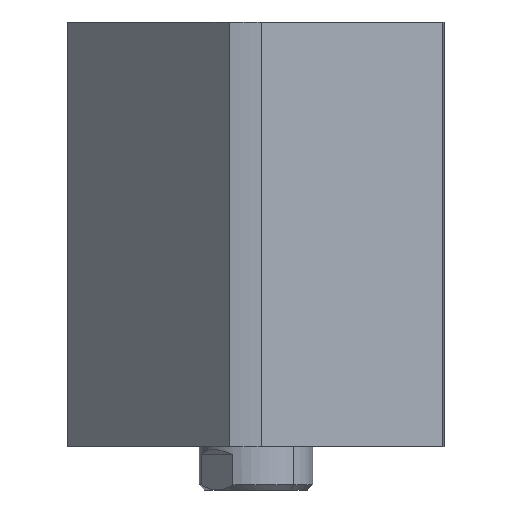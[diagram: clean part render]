
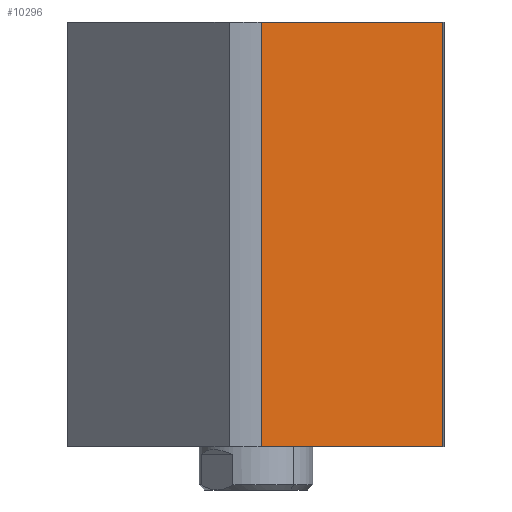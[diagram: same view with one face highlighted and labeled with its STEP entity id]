
A CAD part, left-side view. The second image highlights one B-rep face of the part: STEP entity #10296.
In plain terms, the highlighted planar face has unit normal (-0.747, -0.665, 0) as drawn and (-1, 0, 0) by its records, which use the part's own axes.
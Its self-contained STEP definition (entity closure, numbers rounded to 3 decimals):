
#98 = CARTESIAN_POINT ( 'NONE',  ( -57., 47.971, 168. ) ) ;
#116 = EDGE_CURVE ( 'NONE', #4697, #11147, #10469, .T. ) ;
#408 = AXIS2_PLACEMENT_3D ( 'NONE', #14401, #1515, #9743 ) ;
#1268 = DIRECTION ( 'NONE',  ( 0., 0., 1. ) ) ;
#1310 = ORIENTED_EDGE ( 'NONE', *, *, #116, .F. ) ;
#1473 = VECTOR ( 'NONE', #1268, 1000. ) ;
#1486 = FACE_OUTER_BOUND ( 'NONE', #5302, .T. ) ;
#1515 = DIRECTION ( 'NONE',  ( 1., 0., 0. ) ) ;
#1691 = ORIENTED_EDGE ( 'NONE', *, *, #4620, .T. ) ;
#2108 = VERTEX_POINT ( 'NONE', #12316 ) ;
#2433 = ORIENTED_EDGE ( 'NONE', *, *, #9838, .F. ) ;
#2960 = VECTOR ( 'NONE', #14604, 1000. ) ;
#3171 = ORIENTED_EDGE ( 'NONE', *, *, #12248, .F. ) ;
#3564 = VECTOR ( 'NONE', #4345, 1000. ) ;
#3580 = CARTESIAN_POINT ( 'NONE',  ( -57., 57., 168. ) ) ;
#3662 = CARTESIAN_POINT ( 'NONE',  ( -57., 47.971, -132. ) ) ;
#4345 = DIRECTION ( 'NONE',  ( 0., -1., 0. ) ) ;
#4620 = EDGE_CURVE ( 'NONE', #4697, #2108, #12524, .T. ) ;
#4697 = VERTEX_POINT ( 'NONE', #14989 ) ;
#5186 = CARTESIAN_POINT ( 'NONE',  ( -57., -47.971, -132. ) ) ;
#5302 = EDGE_LOOP ( 'NONE', ( #1310, #1691, #2433, #3171 ) ) ;
#8560 = PLANE ( 'NONE',  #408 ) ;
#9208 = LINE ( 'NONE', #5186, #2960 ) ;
#9374 = LINE ( 'NONE', #3580, #15222 ) ;
#9743 = DIRECTION ( 'NONE',  ( 0., 1., 0. ) ) ;
#9838 = EDGE_CURVE ( 'NONE', #13511, #2108, #9208, .T. ) ;
#10296 = ADVANCED_FACE ( 'NONE', ( #1486 ), #8560, .F. ) ;
#10469 = LINE ( 'NONE', #3662, #1473 ) ;
#11147 = VERTEX_POINT ( 'NONE', #98 ) ;
#11339 = CARTESIAN_POINT ( 'NONE',  ( -57., 57., 0. ) ) ;
#12248 = EDGE_CURVE ( 'NONE', #11147, #13511, #9374, .T. ) ;
#12316 = CARTESIAN_POINT ( 'NONE',  ( -57., -47.971, 0. ) ) ;
#12524 = LINE ( 'NONE', #11339, #3564 ) ;
#13511 = VERTEX_POINT ( 'NONE', #13720 ) ;
#13720 = CARTESIAN_POINT ( 'NONE',  ( -57., -47.971, 168. ) ) ;
#14401 = CARTESIAN_POINT ( 'NONE',  ( -57., 57., 168. ) ) ;
#14604 = DIRECTION ( 'NONE',  ( 0., 0., -1. ) ) ;
#14989 = CARTESIAN_POINT ( 'NONE',  ( -57., 47.971, 0. ) ) ;
#15222 = VECTOR ( 'NONE', #15259, 1000. ) ;
#15259 = DIRECTION ( 'NONE',  ( 0., -1., 0. ) ) ;
